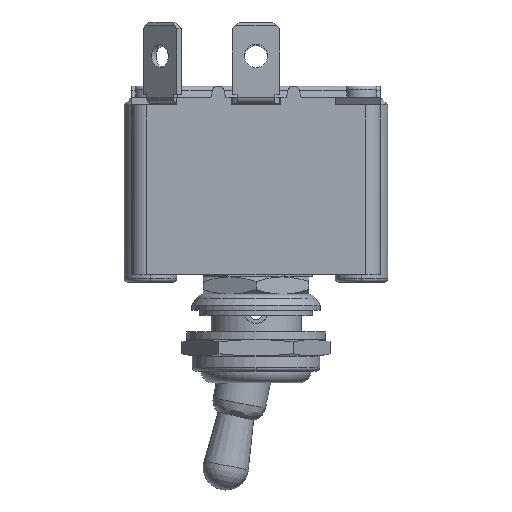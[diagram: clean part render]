
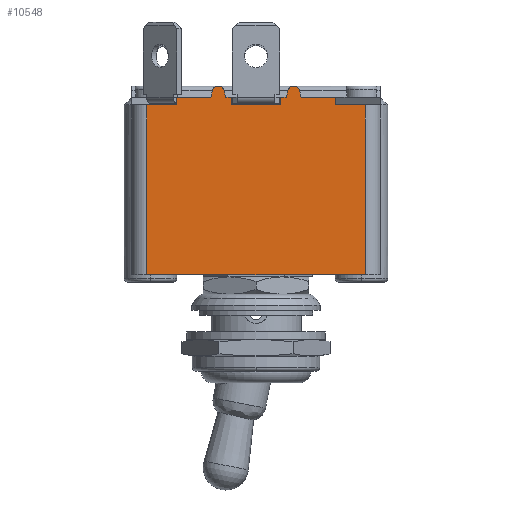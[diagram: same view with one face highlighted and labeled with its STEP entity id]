
A CAD part, front view. The second image highlights one B-rep face of the part: STEP entity #10548.
In plain terms, the highlighted planar face has unit normal (0, -1, 0).
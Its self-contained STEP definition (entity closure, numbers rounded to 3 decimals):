
#2286=DIRECTION('',(1.,0.,0.));
#2287=VECTOR('',#2286,29.);
#2288=CARTESIAN_POINT('',(-14.5,-10.75,-23.5));
#2289=LINE('',#2288,#2287);
#2326=DIRECTION('',(0.,0.,1.));
#2327=VECTOR('',#2326,22.5);
#2328=CARTESIAN_POINT('',(14.5,-10.75,-23.5));
#2329=LINE('',#2328,#2327);
#2824=DIRECTION('',(-1.,0.,0.));
#2825=VECTOR('',#2824,3.946);
#2826=CARTESIAN_POINT('',(-10.554,-10.75,-1.));
#2827=LINE('',#2826,#2825);
#2828=DIRECTION('',(0.,0.,1.));
#2829=VECTOR('',#2828,1.);
#2830=CARTESIAN_POINT('',(-10.554,-10.75,-1.));
#2831=LINE('',#2830,#2829);
#2832=DIRECTION('',(0.243,0.,0.97));
#2833=VECTOR('',#2832,0.922);
#2834=CARTESIAN_POINT('',(-6.,-10.75,0.));
#2835=LINE('',#2834,#2833);
#2836=CARTESIAN_POINT('',(-5.,-10.75,0.7));
#2837=DIRECTION('',(0.,1.,0.));
#2838=DIRECTION('',(-0.97,0.,0.243));
#2839=AXIS2_PLACEMENT_3D('',#2836,#2837,#2838);
#2841=DIRECTION('',(0.243,0.,-0.97));
#2842=VECTOR('',#2841,0.922);
#2843=CARTESIAN_POINT('',(-4.224,-10.75,0.894));
#2844=LINE('',#2843,#2842);
#2845=DIRECTION('',(0.,0.,1.));
#2846=VECTOR('',#2845,1.);
#2847=CARTESIAN_POINT('',(-3.25,-10.75,-1.));
#2848=LINE('',#2847,#2846);
#2849=DIRECTION('',(-1.,0.,0.));
#2850=VECTOR('',#2849,6.5);
#2851=CARTESIAN_POINT('',(3.25,-10.75,-1.));
#2852=LINE('',#2851,#2850);
#2853=DIRECTION('',(0.,0.,1.));
#2854=VECTOR('',#2853,1.);
#2855=CARTESIAN_POINT('',(3.25,-10.75,-1.));
#2856=LINE('',#2855,#2854);
#2857=DIRECTION('',(0.243,0.,0.97));
#2858=VECTOR('',#2857,0.922);
#2859=CARTESIAN_POINT('',(4.,-10.75,0.));
#2860=LINE('',#2859,#2858);
#2861=CARTESIAN_POINT('',(5.,-10.75,0.7));
#2862=DIRECTION('',(0.,1.,0.));
#2863=DIRECTION('',(-0.97,0.,0.243));
#2864=AXIS2_PLACEMENT_3D('',#2861,#2862,#2863);
#2866=DIRECTION('',(0.243,0.,-0.97));
#2867=VECTOR('',#2866,0.922);
#2868=CARTESIAN_POINT('',(5.776,-10.75,0.894));
#2869=LINE('',#2868,#2867);
#2870=DIRECTION('',(0.,0.,1.));
#2871=VECTOR('',#2870,1.);
#2872=CARTESIAN_POINT('',(10.554,-10.75,-1.));
#2873=LINE('',#2872,#2871);
#2874=DIRECTION('',(-1.,0.,0.));
#2875=VECTOR('',#2874,3.946);
#2876=CARTESIAN_POINT('',(14.5,-10.75,-1.));
#2877=LINE('',#2876,#2875);
#2878=DIRECTION('',(0.,0.,-1.));
#2879=VECTOR('',#2878,22.5);
#2880=CARTESIAN_POINT('',(-14.5,-10.75,-1.));
#2881=LINE('',#2880,#2879);
#3666=DIRECTION('',(-1.,0.,0.));
#3667=VECTOR('',#3666,4.554);
#3668=CARTESIAN_POINT('',(10.554,-10.75,0.));
#3669=LINE('',#3668,#3667);
#4918=DIRECTION('',(-1.,0.,0.));
#4919=VECTOR('',#4918,4.554);
#4920=CARTESIAN_POINT('',(-6.,-10.75,0.));
#4921=LINE('',#4920,#4919);
#4981=DIRECTION('',(-1.,0.,0.));
#4982=VECTOR('',#4981,0.75);
#4983=CARTESIAN_POINT('',(-3.25,-10.75,0.));
#4984=LINE('',#4983,#4982);
#5025=DIRECTION('',(-1.,0.,0.));
#5026=VECTOR('',#5025,0.75);
#5027=CARTESIAN_POINT('',(4.,-10.75,0.));
#5028=LINE('',#5027,#5026);
#6291=CARTESIAN_POINT('',(4.224,-10.75,0.894));
#6292=CARTESIAN_POINT('',(5.776,-10.75,0.894));
#6293=VERTEX_POINT('',#6291);
#6294=VERTEX_POINT('',#6292);
#6295=CARTESIAN_POINT('',(-5.776,-10.75,0.894));
#6296=CARTESIAN_POINT('',(-4.224,-10.75,0.894));
#6297=VERTEX_POINT('',#6295);
#6298=VERTEX_POINT('',#6296);
#6308=CARTESIAN_POINT('',(4.,-10.75,0.));
#6310=VERTEX_POINT('',#6308);
#6312=CARTESIAN_POINT('',(-4.,-10.75,0.));
#6314=VERTEX_POINT('',#6312);
#6345=CARTESIAN_POINT('',(6.,-10.75,0.));
#6346=VERTEX_POINT('',#6345);
#6347=CARTESIAN_POINT('',(-6.,-10.75,0.));
#6348=VERTEX_POINT('',#6347);
#6433=CARTESIAN_POINT('',(3.25,-10.75,0.));
#6435=VERTEX_POINT('',#6433);
#6439=CARTESIAN_POINT('',(-3.25,-10.75,0.));
#6440=VERTEX_POINT('',#6439);
#6445=CARTESIAN_POINT('',(10.554,-10.75,0.));
#6446=VERTEX_POINT('',#6445);
#6461=CARTESIAN_POINT('',(-10.554,-10.75,0.));
#6463=VERTEX_POINT('',#6461);
#6501=CARTESIAN_POINT('',(3.25,-10.75,-1.));
#6502=CARTESIAN_POINT('',(-3.25,-10.75,-1.));
#6503=VERTEX_POINT('',#6501);
#6504=VERTEX_POINT('',#6502);
#6505=CARTESIAN_POINT('',(10.554,-10.75,-1.));
#6506=VERTEX_POINT('',#6505);
#6507=CARTESIAN_POINT('',(-10.554,-10.75,-1.));
#6508=VERTEX_POINT('',#6507);
#6525=CARTESIAN_POINT('',(14.5,-10.75,-1.));
#6527=VERTEX_POINT('',#6525);
#6534=CARTESIAN_POINT('',(-14.5,-10.75,-1.));
#6536=VERTEX_POINT('',#6534);
#6610=CARTESIAN_POINT('',(14.5,-10.75,-23.5));
#6612=VERTEX_POINT('',#6610);
#6621=CARTESIAN_POINT('',(-14.5,-10.75,-23.5));
#6623=VERTEX_POINT('',#6621);
#10504=CARTESIAN_POINT('',(16.5,-10.75,0.));
#10505=DIRECTION('',(0.,-1.,0.));
#10506=DIRECTION('',(-1.,0.,0.));
#10507=AXIS2_PLACEMENT_3D('',#10504,#10505,#10506);
#10508=PLANE('',#10507);
#10509=ORIENTED_EDGE('',*,*,#9917,.F.);
#10510=ORIENTED_EDGE('',*,*,#9887,.F.);
#10512=ORIENTED_EDGE('',*,*,#10511,.F.);
#10514=ORIENTED_EDGE('',*,*,#10513,.F.);
#10516=ORIENTED_EDGE('',*,*,#10515,.T.);
#10518=ORIENTED_EDGE('',*,*,#10517,.F.);
#10520=ORIENTED_EDGE('',*,*,#10519,.T.);
#10522=ORIENTED_EDGE('',*,*,#10521,.T.);
#10524=ORIENTED_EDGE('',*,*,#10523,.T.);
#10526=ORIENTED_EDGE('',*,*,#10525,.F.);
#10528=ORIENTED_EDGE('',*,*,#10527,.F.);
#10530=ORIENTED_EDGE('',*,*,#10529,.F.);
#10532=ORIENTED_EDGE('',*,*,#10531,.T.);
#10534=ORIENTED_EDGE('',*,*,#10533,.F.);
#10536=ORIENTED_EDGE('',*,*,#10535,.T.);
#10538=ORIENTED_EDGE('',*,*,#10537,.T.);
#10540=ORIENTED_EDGE('',*,*,#10539,.T.);
#10542=ORIENTED_EDGE('',*,*,#10541,.F.);
#10544=ORIENTED_EDGE('',*,*,#10543,.F.);
#10545=ORIENTED_EDGE('',*,*,#10488,.F.);
#10546=EDGE_LOOP('',(#10509,#10510,#10512,#10514,#10516,#10518,#10520,#10522,
#10524,#10526,#10528,#10530,#10532,#10534,#10536,#10538,#10540,#10542,#10544,
#10545));
#10547=FACE_OUTER_BOUND('',#10546,.F.);
#10548=ADVANCED_FACE('',(#10547),#10508,.T.);
#2840=CIRCLE('',#2839,0.8);
#2865=CIRCLE('',#2864,0.8);
#9887=EDGE_CURVE('',#6623,#6612,#2289,.T.);
#9917=EDGE_CURVE('',#6612,#6527,#2329,.T.);
#10488=EDGE_CURVE('',#6527,#6506,#2877,.T.);
#10511=EDGE_CURVE('',#6536,#6623,#2881,.T.);
#10513=EDGE_CURVE('',#6508,#6536,#2827,.T.);
#10515=EDGE_CURVE('',#6508,#6463,#2831,.T.);
#10517=EDGE_CURVE('',#6348,#6463,#4921,.T.);
#10519=EDGE_CURVE('',#6348,#6297,#2835,.T.);
#10521=EDGE_CURVE('',#6297,#6298,#2840,.T.);
#10523=EDGE_CURVE('',#6298,#6314,#2844,.T.);
#10525=EDGE_CURVE('',#6440,#6314,#4984,.T.);
#10527=EDGE_CURVE('',#6504,#6440,#2848,.T.);
#10529=EDGE_CURVE('',#6503,#6504,#2852,.T.);
#10531=EDGE_CURVE('',#6503,#6435,#2856,.T.);
#10533=EDGE_CURVE('',#6310,#6435,#5028,.T.);
#10535=EDGE_CURVE('',#6310,#6293,#2860,.T.);
#10537=EDGE_CURVE('',#6293,#6294,#2865,.T.);
#10539=EDGE_CURVE('',#6294,#6346,#2869,.T.);
#10541=EDGE_CURVE('',#6446,#6346,#3669,.T.);
#10543=EDGE_CURVE('',#6506,#6446,#2873,.T.);
